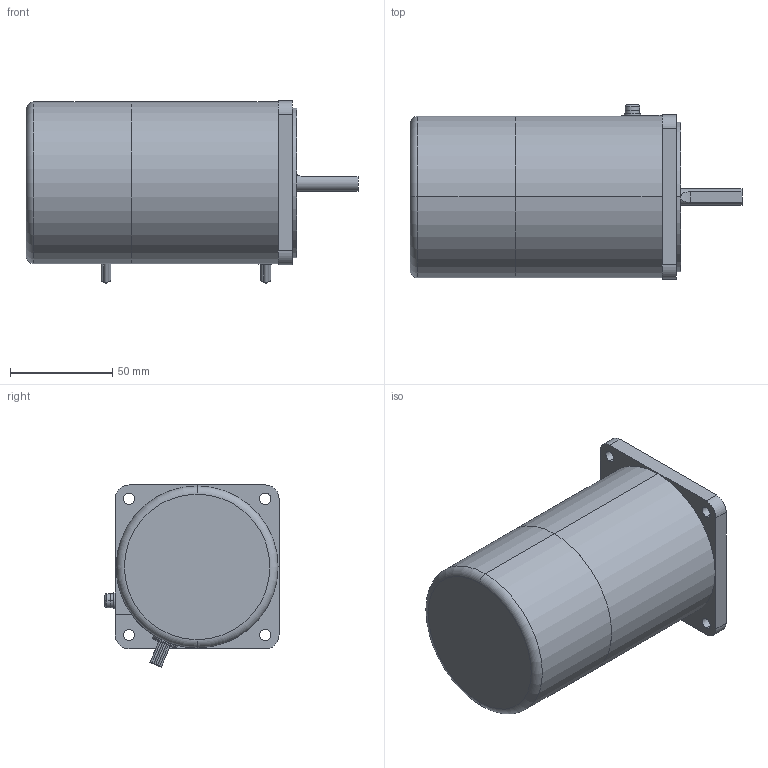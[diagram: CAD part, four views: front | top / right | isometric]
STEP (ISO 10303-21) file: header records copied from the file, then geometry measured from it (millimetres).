
FILE_DESCRIPTION(('starvars output'),'2;1');
FILE_NAME('4IK25A-SW2M.stp','14:10:07 2015/05/11',( 'Thomas Industrial Network Germany GmbH'),( 'Thomas Industrial Network Germany GmbH'),'unknown preprocess','ACIS' ,'unknown authorization');
FILE_SCHEMA(('AUTOMOTIVE_DESIGN_CC2 {UNKNOWN IMPLEMENTATION LEVEL}'));
Length unit declared in the file: millimetre
Products named in the file (1): PRODUCT_ID_2335
Bounding box: 162 x 85 x 88.85 mm (x, y, z)
Volume: 652487.8 mm3; surface area: 47956.7 mm2
Topology: 1 solids, 1 shells, 102 faces, 242 edges, 159 vertices
Faces by surface type: cylinder 57, plane 37, torus 8
Entity records: 3702 total; most frequent: CARTESIAN_POINT 623, ORIENTED_EDGE 484, DIRECTION 408, EDGE_CURVE 242, VERTEX_POINT 159, AXIS2_PLACEMENT_3D 151, EDGE_LOOP 127, FACE_BOUND 127
